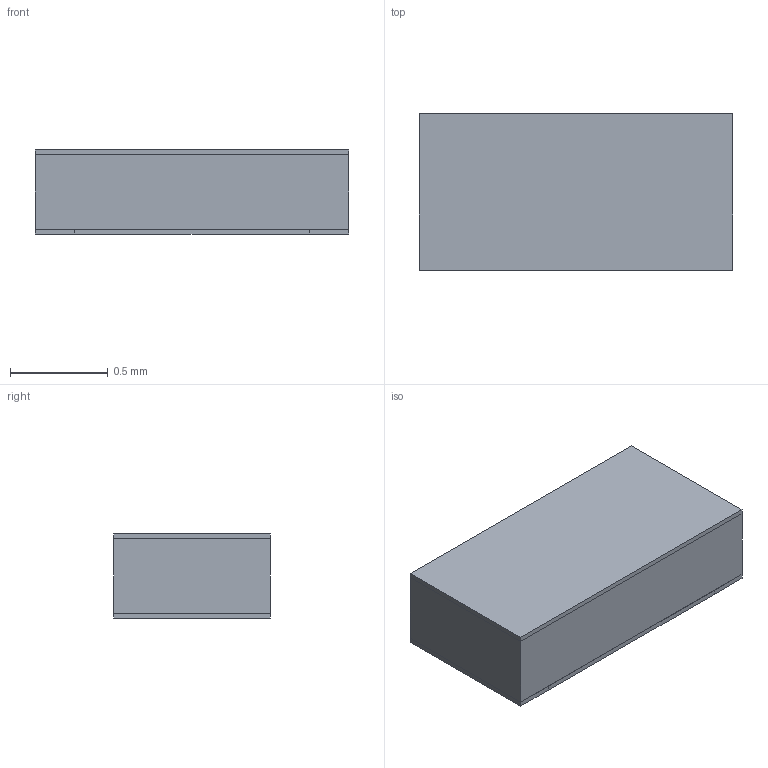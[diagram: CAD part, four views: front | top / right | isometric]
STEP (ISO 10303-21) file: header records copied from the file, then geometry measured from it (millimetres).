
FILE_DESCRIPTION(('STEP AP203'), '1');
FILE_NAME('栖闉罻', '', ('UNSPECIFIED'), ('UNSPECIFIED'), 'ASCON STEP Converter 1.6', 'ASCON Math Kernel', '');
FILE_SCHEMA(('CONFIG_CONTROL_DESIGN'));
Length unit declared in the file: millimetre
Assembly tree (1 placements, depth 2):
  (unnamed)
    (unnamed)
Bounding box: 1.6 x 0.8 x 0.43 mm (x, y, z)
Volume: 0.5 mm3; surface area: 10 mm2
Topology: 5 solids, 6 shells, 49 faces, 111 edges, 74 vertices
Faces by surface type: plane 45, cylinder 4
Entity records: 1865 total; most frequent: CARTESIAN_POINT 236, ORIENTED_EDGE 222, DIRECTION 221, EDGE_CURVE 111, LINE 103, VECTOR 103, VERTEX_POINT 74, AXIS2_PLACEMENT_3D 59
